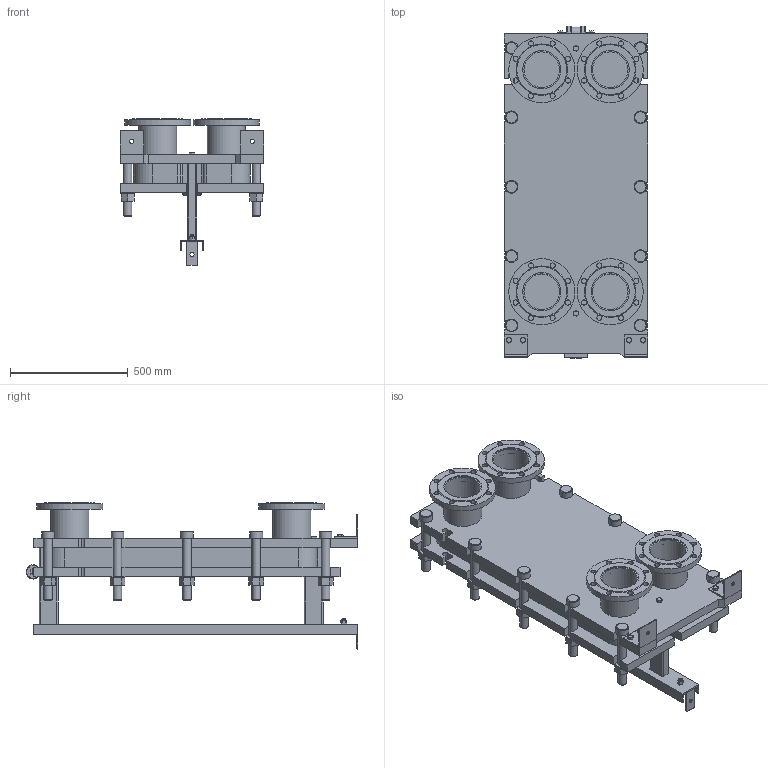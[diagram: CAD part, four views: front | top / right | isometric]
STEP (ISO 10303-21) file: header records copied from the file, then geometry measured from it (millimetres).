
FILE_DESCRIPTION(/* description */ (''),/* implementation_level */ '2;1');
FILE_NAME(/* name */ 'C:\Users\zhuro\Desktop\ENCO\TO\ЭН-041\ЭН-0,5-041-24-1.stp',/* time_stamp */ '2022-06-06T10:50:09+03:00',/* author */ ('zhuro'),/* organization */ (''),/* preprocessor_version */ 'ST-DEVELOPER v18.1',/* originating_system */ 'Autodesk Inventor 2022',/* authorisation */ '');
FILE_SCHEMA (('AUTOMOTIVE_DESIGN { 1 0 10303 214 3 1 1 }'));
Length unit declared in the file: millimetre
Products named in the file (1): ЭН-0,5-041-24-1
Bounding box: 610 x 1406.5 x 620 mm (x, y, z)
Volume: 121702244.1 mm3; surface area: 7348773.4 mm2
Topology: 52 solids, 52 shells, 711 faces, 1696 edges, 1094 vertices
Faces by surface type: plane 487, cylinder 177, cone 41, torus 6
Full cylindrical faces by diameter (mm): 8 x4, 10 x2, 16 x8, 18 x3, 22 x32, 36 x24, 50 x1, 54 x10, 60 x12, 151 x4, 161 x8, 280 x4
Entity records: 22667 total; most frequent: CARTESIAN_POINT 5230, DIRECTION 3644, ORIENTED_EDGE 3392, EDGE_CURVE 1696, AXIS2_PLACEMENT_3D 1272, LINE 1100, VECTOR 1100, VERTEX_POINT 1094
